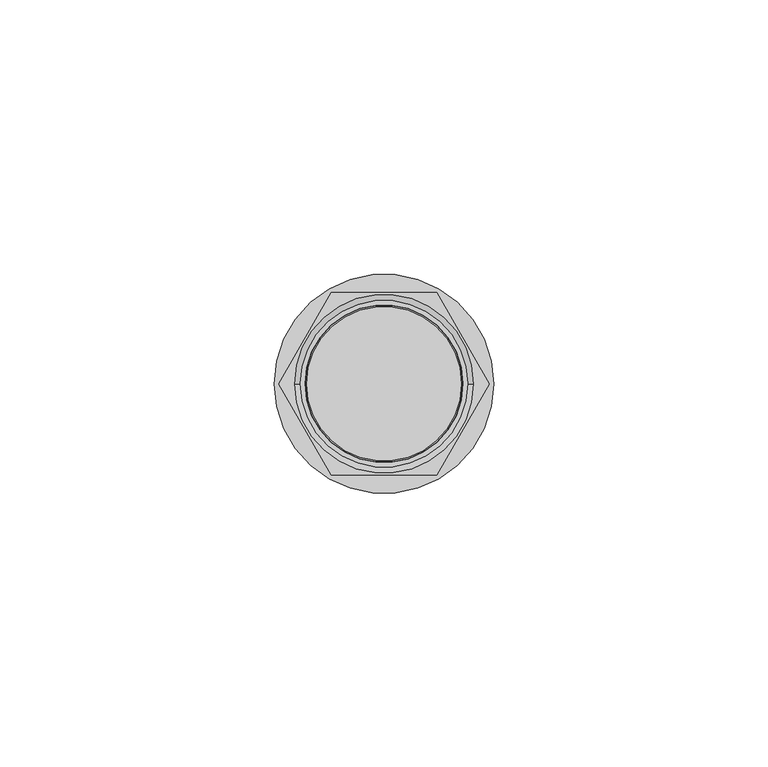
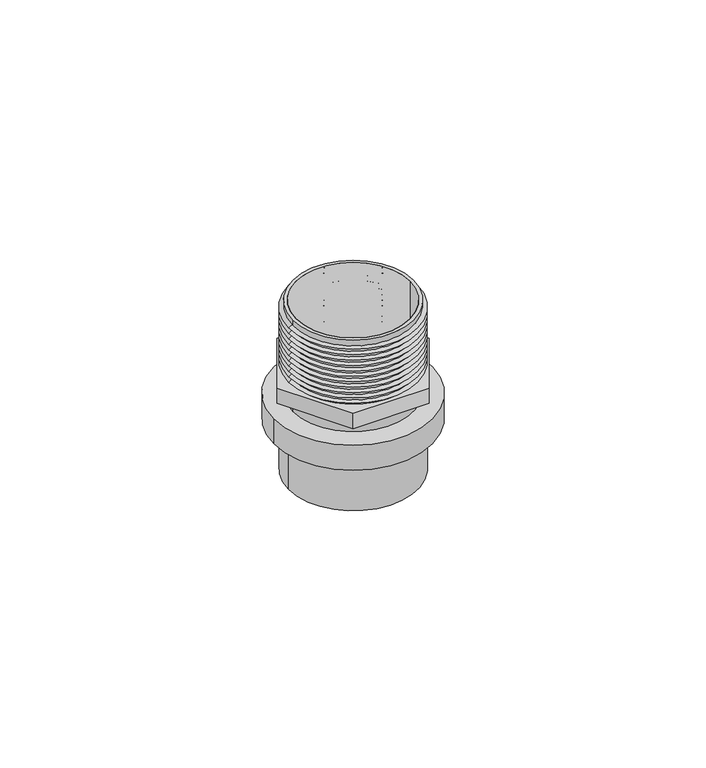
"""IFC4 building model written with IfcOpenShell, lengths in millimetres: valve geometry, Adaptador Macho con Ins Metalico_Lubrizol_CPVC_FlowGuard_MX 25mm : Adaptador Macho con Ins Metalico_Lubrizol_CPVC_FlowGuard_MX 25mm."""

import ifcopenshell
import ifcopenshell.guid

model = None  # the IFC model being written
_history = None  # IfcOwnerHistory: only IFC2X3 demands one
_inside = {}  # id of a spatial element -> (the spatial element, [elements in it])
_under = {}  # id of a project, library or spatial element -> (it, [spatial elements below it])
_declared = {}  # id of a project -> (the project, [libraries it declares])
_typed = {}  # id of a type object -> (the type object, [elements of that type])
_made_of = {}  # id of a material, layer set ... -> (it, [elements and type objects made of it])


def new_model(schema):
    """Start an empty IFC model of exactly this schema.

    Asked for "IFC4X3", IfcOpenShell would pick the latest addendum, in which some entities
    have other attributes; the version numbers below select the first issue.
    IFC2X3 requires an IfcOwnerHistory on every rooted entity: one is made here for all.
    """
    global model, _history
    if schema == "IFC4X3":
        model = ifcopenshell.file(schema_version=(4, 3, 0, 0))
    else:
        model = ifcopenshell.file(schema=schema)
    _inside.clear()
    _under.clear()
    _declared.clear()
    _typed.clear()
    _made_of.clear()
    _history = None
    if model.schema == "IFC2X3":
        org = make("IfcOrganization", Name="unknown")
        user = make(
            "IfcPersonAndOrganization",
            ThePerson=make("IfcPerson", FamilyName="unknown"),
            TheOrganization=org,
        )
        app = make(
            "IfcApplication",
            ApplicationDeveloper=org,
            Version="unknown",
            ApplicationFullName="unknown",
            ApplicationIdentifier="unknown",
        )
        _history = make(
            "IfcOwnerHistory",
            OwningUser=user,
            OwningApplication=app,
            ChangeAction="ADDED",
            CreationDate=0,
        )
    return model


def make(cls, **values):
    """One entity of the class cls with the attributes given. An attribute that is None is left unset."""
    return model.create_entity(
        cls, **{name: value for name, value in values.items() if value is not None}
    )


def rooted(cls, **values):
    """An entity with a GlobalId (a new one), such as an element, a storey or a relation."""
    return make(cls, GlobalId=ifcopenshell.guid.new(), OwnerHistory=_history, **values)


def si_unit(unit_type, name, prefix=None):
    """IfcSIUnit, for example si_unit("LENGTHUNIT", "METRE", prefix="MILLI")."""
    return make("IfcSIUnit", UnitType=unit_type, Prefix=prefix, Name=name)


def assignment(units):
    """IfcUnitAssignment: the units of a project."""
    return None if units is None else make("IfcUnitAssignment", Units=units)


def point(xyz):
    """IfcCartesianPoint."""
    return None if xyz is None else make("IfcCartesianPoint", Coordinates=xyz)


def direction(xyz):
    """IfcDirection."""
    return None if xyz is None else make("IfcDirection", DirectionRatios=xyz)


def frame(location, z_axis=None, x_axis=None):
    """IfcAxis2Placement3D, a coordinate frame: its origin and axes. An axis left out is left unset."""
    return make(
        "IfcAxis2Placement3D",
        Location=point(location),
        Axis=direction(z_axis),
        RefDirection=direction(x_axis),
    )


def frame_2d(location, x_axis=None):
    """IfcAxis2Placement2D, a coordinate frame in the plane: its origin and x axis."""
    return make(
        "IfcAxis2Placement2D", Location=point(location), RefDirection=direction(x_axis)
    )


def origin():
    """The frame at (0, 0, 0) with its axes left unset."""
    return frame((0.0, 0.0, 0.0))


def origin_with_axes():
    """The frame at (0, 0, 0) with the z axis (0, 0, 1) and the x axis (1, 0, 0) written out."""
    return frame((0.0, 0.0, 0.0), z_axis=(0.0, 0.0, 1.0), x_axis=(1.0, 0.0, 0.0))


def origin_2d():
    """The frame at (0, 0) in the plane with its x axis left unset."""
    return frame_2d((0.0, 0.0))


def place(relative_to, where):
    """IfcLocalPlacement: puts the frame where relative to a parent placement (None: the world)."""
    return make(
        "IfcLocalPlacement", PlacementRelTo=relative_to, RelativePlacement=where
    )


def context(
    kind, dimensions, precision=None, world=None, true_north=None, identifier=None
):
    """IfcGeometricRepresentationContext, for example the 3D "Model" context."""
    return make(
        "IfcGeometricRepresentationContext",
        ContextIdentifier=identifier,
        ContextType=kind,
        CoordinateSpaceDimension=dimensions,
        Precision=precision,
        WorldCoordinateSystem=world,
        TrueNorth=true_north,
    )


def project(units=None, contexts=None):
    """IfcProject with its units and contexts."""
    return rooted(
        "IfcProject",
        Name="project",
        RepresentationContexts=contexts,
        UnitsInContext=assignment(units),
    )


def spatial(cls, under=None, at=None, **own):
    """A site, building, storey or space (cls), placed at a placement, below another one or the project."""
    s = rooted(cls, ObjectPlacement=at, **own)
    if under is not None:
        _under.setdefault(under.id(), (under, []))[1].append(s)
    return s


def polyline(points):
    """IfcPolyline through the points."""
    return make("IfcPolyline", Points=[point(p) for p in points])


def circle_curve(where, radius):
    """IfcCircle in the frame where."""
    return make("IfcCircle", Position=where, Radius=radius)


def trimmed(basis, trim1, trim2, sense, master):
    """IfcTrimmedCurve: the piece of a basis curve between two trims."""
    return make(
        "IfcTrimmedCurve",
        BasisCurve=basis,
        Trim1=trim1,
        Trim2=trim2,
        SenseAgreement=sense,
        MasterRepresentation=master,
    )


def segment(curve, same_sense, transition):
    """IfcCompositeCurveSegment."""
    return make(
        "IfcCompositeCurveSegment",
        Transition=transition,
        SameSense=same_sense,
        ParentCurve=curve,
    )


def composite_curve(segments, self_intersect=None):
    """IfcCompositeCurve: segments joined end to end."""
    return make("IfcCompositeCurve", Segments=segments, SelfIntersect=self_intersect)


def outline(outer, holes=None, kind="AREA"):
    """IfcArbitraryClosedProfileDef: a profile drawn as a closed curve; with holes, ...WithVoids."""
    if holes is None:
        return make("IfcArbitraryClosedProfileDef", ProfileType=kind, OuterCurve=outer)
    return make(
        "IfcArbitraryProfileDefWithVoids",
        ProfileType=kind,
        OuterCurve=outer,
        InnerCurves=holes,
    )


def extrude(swept, where, along, depth):
    """IfcExtrudedAreaSolid: the profile swept, set in the frame where, extruded along a direction by depth."""
    return make(
        "IfcExtrudedAreaSolid",
        SweptArea=swept,
        Position=where,
        ExtrudedDirection=direction(along),
        Depth=depth,
    )


def shape(context_of_items, identifier, shape_type, items):
    """IfcShapeRepresentation: the items that make up one representation, for example the "Body"."""
    return make(
        "IfcShapeRepresentation",
        ContextOfItems=context_of_items,
        RepresentationIdentifier=identifier,
        RepresentationType=shape_type,
        Items=items,
    )


def source(mapping_origin, context_of_items, identifier, shape_type, items):
    """IfcRepresentationMap: a shape defined once, which mapped items show again and again."""
    return make(
        "IfcRepresentationMap",
        MappingOrigin=mapping_origin,
        MappedRepresentation=shape(context_of_items, identifier, shape_type, items),
    )


def transform(
    local_origin,
    x_axis=None,
    y_axis=None,
    z_axis=None,
    scale=None,
    scale2=None,
    scale3=None,
    uniform=True,
):
    """IfcCartesianTransformationOperator3D, or its non-uniform kind. x_axis, y_axis, z_axis: its Axis1, 2, 3."""
    if uniform:
        return make(
            "IfcCartesianTransformationOperator3D",
            Axis1=direction(x_axis),
            Axis2=direction(y_axis),
            LocalOrigin=point(local_origin),
            Scale=scale,
            Axis3=direction(z_axis),
        )
    return make(
        "IfcCartesianTransformationOperator3DnonUniform",
        Axis1=direction(x_axis),
        Axis2=direction(y_axis),
        LocalOrigin=point(local_origin),
        Scale=scale,
        Axis3=direction(z_axis),
        Scale2=scale2,
        Scale3=scale3,
    )


def mapped(mapping_source, mapping_target):
    """IfcMappedItem: shows the shape of a source again, moved by a transform."""
    return make(
        "IfcMappedItem", MappingSource=mapping_source, MappingTarget=mapping_target
    )


def made_of(thing, what):
    """Note that an element or type object is made of a material, layer set ...; save() writes the relation."""
    if what is not None:
        _made_of.setdefault(what.id(), (what, []))[1].append(thing)
    return thing


def element(
    cls,
    number,
    at=None,
    inside=None,
    cuts=None,
    type_object=None,
    material=None,
    context=None,
    identifier="Body",
    shape_type=None,
    held_by="IfcProductDefinitionShape",
    body=None,
    shapes=None,
    **own,
):
    """One element of the class cls, such as IfcWall. Its Tag is "e" and its number.

    at: its placement. inside: the storey or other place that contains it. cuts: it is an
    opening in that element (IfcRelVoidsElement). A single representation is given by context,
    identifier, shape_type and body (its items); several are given by shapes. held_by: the class
    of the entity that holds the representations. save() writes the other relations.
    """
    e = rooted(cls, Tag="e%d" % number, ObjectPlacement=at, **own)
    if body is not None:
        shapes = [shape(context, identifier, shape_type, body)]
    if shapes is not None:
        e.Representation = make(held_by, Representations=shapes)
    if inside is not None:
        _inside.setdefault(inside.id(), (inside, []))[1].append(e)
    if cuts is not None:
        rooted(
            "IfcRelVoidsElement", RelatingBuildingElement=cuts, RelatedOpeningElement=e
        )
    if type_object is not None:
        _typed.setdefault(type_object.id(), (type_object, []))[1].append(e)
    return made_of(e, material)


def aggregate(whole, parts):
    """IfcRelAggregates: a whole, such as a stair, and the parts it consists of."""
    return rooted("IfcRelAggregates", RelatingObject=whole, RelatedObjects=parts)


def save(model, path):
    """Write the relations noted so far, then the file.

    IfcRelAggregates (storeys below a building ...), IfcRelContainedInSpatialStructure (elements
    in a storey), IfcRelDefinesByType, IfcRelAssociatesMaterial and IfcRelDeclares: one each for
    every whole, place, type object, material and project.
    """
    for whole, parts in _under.values():
        aggregate(whole, parts)
    for where, things in _inside.values():
        rooted(
            "IfcRelContainedInSpatialStructure",
            RelatedElements=things,
            RelatingStructure=where,
        )
    for kind, things in _typed.values():
        rooted("IfcRelDefinesByType", RelatedObjects=things, RelatingType=kind)
    for what, things in _made_of.values():
        rooted("IfcRelAssociatesMaterial", RelatedObjects=things, RelatingMaterial=what)
    for by, libraries in _declared.values():
        rooted("IfcRelDeclares", RelatingContext=by, RelatedDefinitions=libraries)
    model.write(path)


def plane_surface(at):
    """IfcPlane: the flat surface through the origin of the frame at, square to its z axis."""
    return make("IfcPlane", Position=at)


def cylinder_surface(at, radius):
    """IfcCylindricalSurface: all points at the distance radius from the z axis of the frame at."""
    return make("IfcCylindricalSurface", Position=at, Radius=radius)


def revolved_surface(curve, axis_point, axis_direction):
    """IfcSurfaceOfRevolution: the curve turned about the line through axis_point along axis_direction."""
    return make(
        "IfcSurfaceOfRevolution",
        SweptCurve=make("IfcArbitraryOpenProfileDef", ProfileType="CURVE", Curve=curve),
        AxisPosition=make("IfcAxis1Placement", Location=point(axis_point), Axis=direction(axis_direction)),
    )


def advanced_brep(points, edges, surfaces, faces):
    """IfcAdvancedBrep: a solid bounded by faces that lie on surfaces and meet in shared edges.

    An edge is (start, end): straight between two places in points (the first is 0);
    or (start, end, curve); or (start, end, curve, False) where it runs against its curve.
    A face is (place in surfaces, loops), or (place, loops, False) where it looks against
    its surface's normal. A loop lists edges by number (the first is 1), with a minus sign
    where the edge is run from its end to its start. The first loop is the outer one.
    """
    corners = [point(p) for p in points]
    vertices = [make("IfcVertexPoint", VertexGeometry=c) for c in corners]
    made = []
    for start, end, *more in edges:
        made.append(
            make(
                "IfcEdgeCurve",
                EdgeStart=vertices[start],
                EdgeEnd=vertices[end],
                EdgeGeometry=more[0] if more else make("IfcPolyline", Points=[corners[start], corners[end]]),
                SameSense=more[1] if len(more) > 1 else True,
            )
        )
    hull = []
    for where, loops, *sense in faces:
        bounds = []
        for j, loop in enumerate(loops):
            ring = [make("IfcOrientedEdge", EdgeElement=made[abs(k) - 1], Orientation=k > 0) for k in loop]
            bounds.append(
                make(
                    "IfcFaceOuterBound" if j == 0 else "IfcFaceBound",
                    Bound=make("IfcEdgeLoop", EdgeList=ring),
                    Orientation=True,
                )
            )
        hull.append(make("IfcAdvancedFace", Bounds=bounds, FaceSurface=surfaces[where], SameSense=sense[0] if sense else True))
    return make("IfcAdvancedBrep", Outer=make("IfcClosedShell", CfsFaces=hull))


def valve_420338b3(model_context):
    return source(origin(), model_context, "Body", "SolidModel", [
        extrude(outline(composite_curve([segment(trimmed(circle_curve(origin_2d(), 20.0), [point((-20.0, 0.0))], [point((20.0, 0.0))], False, "CARTESIAN"), True, "CONTINUOUS"), segment(trimmed(circle_curve(origin_2d(), 20.0), [point((20.0, 0.0))], [point((-20.0, 0.0))], False, "CARTESIAN"), True, "CONTINUOUS")], self_intersect=False)), frame((0.0, 0.0, 13.4545928), z_axis=(0.0, 0.0, 1.0), x_axis=(1.0, 0.0, 0.0)), (0.0, 0.0, 1.0), 6.6751673),
        extrude(outline(composite_curve([segment(trimmed(circle_curve(origin_2d(), 15.2362873), [point((-15.2362873, 0.0))], [point((15.2362873, 0.0))], False, "CARTESIAN"), True, "CONTINUOUS"), segment(trimmed(circle_curve(origin_2d(), 15.2362873), [point((15.2362873, 0.0))], [point((-15.2362873, 0.0))], False, "CARTESIAN"), True, "CONTINUOUS")], self_intersect=False), holes=[composite_curve([segment(trimmed(circle_curve(origin_2d(), 14.3854831), [point((-14.3854831, 0.0))], [point((14.3854831, 0.0))], True, "CARTESIAN"), True, "CONTINUOUS"), segment(trimmed(circle_curve(origin_2d(), 14.3854831), [point((14.3854831, 0.0))], [point((-14.3854831, 0.0))], True, "CARTESIAN"), True, "CONTINUOUS")], self_intersect=False)]), frame((0.0, 0.0, 20.1297601), z_axis=(0.0, 0.0, 1.0), x_axis=(1.0, 0.0, 0.0)), (0.0, 0.0, 1.0), 24.7452399),
        extrude(outline(polyline([(-9.584841, -16.6014316), (-19.169682, 0.0), (-9.584841, 16.6014316), (9.584841, 16.6014316), (19.169682, 0.0), (9.584841, -16.6014316), (-9.584841, -16.6014316)]), holes=[composite_curve([segment(trimmed(circle_curve(origin_2d(), 14.1), [point((-14.1, 0.0))], [point((14.1, 0.0))], True, "CARTESIAN"), True, "CONTINUOUS"), segment(trimmed(circle_curve(origin_2d(), 14.1), [point((14.1, 0.0))], [point((-14.1, 0.0))], True, "CARTESIAN"), True, "CONTINUOUS")], self_intersect=False)]), frame((0.0, 0.0, 23.974905), z_axis=(0.0, 0.0, 1.0), x_axis=(1.0, 0.0, 0.0)), (0.0, 0.0, 1.0), 4.0502174),
        advanced_brep(
        [(15.2362873, 0.0, 43.8839284), (-15.2362873, 0.0, 43.8839284), (-15.2362873, 0.0, 44.875), (15.2362873, 0.0, 44.875), (16.3, 0.0, 43.1391088), (-16.3, 0.0, 43.1391088), (15.2657757, 0.0, 42.4149371), (-15.2657757, 0.0, 42.4149371), (16.3, 0.0, 41.6907655), (-16.3, 0.0, 41.6907655), (15.2657757, 0.0, 40.9665939), (-15.2657757, 0.0, 40.9665939), (16.3, 0.0, 40.2424223), (-16.3, 0.0, 40.2424223), (15.2657757, 0.0, 39.5182506), (-15.2657757, 0.0, 39.5182506), (16.3, 0.0, 38.794079), (-16.3, 0.0, 38.794079), (15.2657757, 0.0, 38.0699074), (-15.2657757, 0.0, 38.0699074), (16.3, 0.0, 37.3457358), (-16.3, 0.0, 37.3457358), (15.2657757, 0.0, 36.6215641), (-15.2657757, 0.0, 36.6215641), (16.3, 0.0, 35.8973925), (-16.3, 0.0, 35.8973925), (15.2657757, 0.0, 35.1732209), (-15.2657757, 0.0, 35.1732209), (16.3, 0.0, 34.4490493), (-16.3, 0.0, 34.4490493), (15.2657757, 0.0, 33.7248777), (-15.2657757, 0.0, 33.7248777), (16.3, 0.0, 33.000706), (-16.3, 0.0, 33.000706), (15.2657757, 0.0, 32.2765344), (-15.2657757, 0.0, 32.2765344), (16.3, 0.0, 31.5523628), (-16.3, 0.0, 31.5523628), (15.2992007, 0.0, 30.8515956), (-15.2992007, 0.0, 30.8515956), (14.3854831, 0.0, 44.875), (-14.3854831, 0.0, 44.875), (-14.3854831, 0.0, 28.0251223), (14.3854831, 0.0, 28.0251223), (16.3, 0.0, 30.1508284), (-16.3, 0.0, 30.1508284), (15.2657757, 0.0, 29.4266568), (-15.2657757, 0.0, 29.4266568), (16.3, 0.0, 28.7024851), (-16.3, 0.0, 28.7024851), (15.3326257, 0.0, 28.0251223), (-15.3326257, 0.0, 28.0251223)],
        [
            (0, 1, circle_curve(frame((0.0, 0.0, 43.8839284), z_axis=(0.0, 0.0, 1.0), x_axis=(-1.0, 0.0, 0.0)), 15.2362873)),
            (1, 2),
            (2, 3, circle_curve(frame((0.0, 0.0, 44.875), z_axis=(0.0, 0.0, -1.0), x_axis=(-1.0, 0.0, 0.0)), 15.2362873)),
            (3, 0),
            (1, 0, circle_curve(frame((0.0, 0.0, 43.8839284), z_axis=(0.0, 0.0, 1.0), x_axis=(-1.0, 0.0, 0.0)), 15.2362873)),
            (3, 2, circle_curve(frame((0.0, 0.0, 44.875), z_axis=(0.0, 0.0, -1.0), x_axis=(-1.0, 0.0, 0.0)), 15.2362873)),
            (4, 5, circle_curve(frame((0.0, 0.0, 43.1391088), z_axis=(0.0, 0.0, 1.0), x_axis=(-1.0, 0.0, 0.0)), 16.3)),
            (5, 1),
            (0, 4),
            (5, 4, circle_curve(frame((0.0, 0.0, 43.1391088), z_axis=(0.0, 0.0, 1.0), x_axis=(-1.0, 0.0, 0.0)), 16.3)),
            (6, 7, circle_curve(frame((0.0, 0.0, 42.4149371), z_axis=(0.0, 0.0, 1.0), x_axis=(-1.0, 0.0, 0.0)), 15.2657757)),
            (7, 5),
            (4, 6),
            (7, 6, circle_curve(frame((0.0, 0.0, 42.4149371), z_axis=(0.0, 0.0, 1.0), x_axis=(-1.0, 0.0, 0.0)), 15.2657757)),
            (8, 9, circle_curve(frame((0.0, 0.0, 41.6907655), z_axis=(0.0, 0.0, 1.0), x_axis=(-1.0, 0.0, 0.0)), 16.3)),
            (9, 7),
            (6, 8),
            (9, 8, circle_curve(frame((0.0, 0.0, 41.6907655), z_axis=(0.0, 0.0, 1.0), x_axis=(-1.0, 0.0, 0.0)), 16.3)),
            (10, 11, circle_curve(frame((0.0, 0.0, 40.9665939), z_axis=(0.0, 0.0, 1.0), x_axis=(-1.0, 0.0, 0.0)), 15.2657757)),
            (11, 9),
            (8, 10),
            (11, 10, circle_curve(frame((0.0, 0.0, 40.9665939), z_axis=(0.0, 0.0, 1.0), x_axis=(-1.0, 0.0, 0.0)), 15.2657757)),
            (12, 13, circle_curve(frame((0.0, 0.0, 40.2424223), z_axis=(0.0, 0.0, 1.0), x_axis=(-1.0, 0.0, 0.0)), 16.3)),
            (13, 11),
            (10, 12),
            (13, 12, circle_curve(frame((0.0, 0.0, 40.2424223), z_axis=(0.0, 0.0, 1.0), x_axis=(-1.0, 0.0, 0.0)), 16.3)),
            (14, 15, circle_curve(frame((0.0, 0.0, 39.5182506), z_axis=(0.0, 0.0, 1.0), x_axis=(-1.0, 0.0, 0.0)), 15.2657757)),
            (15, 13),
            (12, 14),
            (15, 14, circle_curve(frame((0.0, 0.0, 39.5182506), z_axis=(0.0, 0.0, 1.0), x_axis=(-1.0, 0.0, 0.0)), 15.2657757)),
            (16, 17, circle_curve(frame((0.0, 0.0, 38.794079), z_axis=(0.0, 0.0, 1.0), x_axis=(-1.0, 0.0, 0.0)), 16.3)),
            (17, 15),
            (14, 16),
            (17, 16, circle_curve(frame((0.0, 0.0, 38.794079), z_axis=(0.0, 0.0, 1.0), x_axis=(-1.0, 0.0, 0.0)), 16.3)),
            (18, 19, circle_curve(frame((0.0, 0.0, 38.0699074), z_axis=(0.0, 0.0, 1.0), x_axis=(-1.0, 0.0, 0.0)), 15.2657757)),
            (19, 17),
            (16, 18),
            (19, 18, circle_curve(frame((0.0, 0.0, 38.0699074), z_axis=(0.0, 0.0, 1.0), x_axis=(-1.0, 0.0, 0.0)), 15.2657757)),
            (20, 21, circle_curve(frame((0.0, 0.0, 37.3457358), z_axis=(0.0, 0.0, 1.0), x_axis=(-1.0, 0.0, 0.0)), 16.3)),
            (21, 19),
            (18, 20),
            (21, 20, circle_curve(frame((0.0, 0.0, 37.3457358), z_axis=(0.0, 0.0, 1.0), x_axis=(-1.0, 0.0, 0.0)), 16.3)),
            (22, 23, circle_curve(frame((0.0, 0.0, 36.6215641), z_axis=(0.0, 0.0, 1.0), x_axis=(-1.0, 0.0, 0.0)), 15.2657757)),
            (23, 21),
            (20, 22),
            (23, 22, circle_curve(frame((0.0, 0.0, 36.6215641), z_axis=(0.0, 0.0, 1.0), x_axis=(-1.0, 0.0, 0.0)), 15.2657757)),
            (24, 25, circle_curve(frame((0.0, 0.0, 35.8973925), z_axis=(0.0, 0.0, 1.0), x_axis=(-1.0, 0.0, 0.0)), 16.3)),
            (25, 23),
            (22, 24),
            (25, 24, circle_curve(frame((0.0, 0.0, 35.8973925), z_axis=(0.0, 0.0, 1.0), x_axis=(-1.0, 0.0, 0.0)), 16.3)),
            (26, 27, circle_curve(frame((0.0, 0.0, 35.1732209), z_axis=(0.0, 0.0, 1.0), x_axis=(-1.0, 0.0, 0.0)), 15.2657757)),
            (27, 25),
            (24, 26),
            (27, 26, circle_curve(frame((0.0, 0.0, 35.1732209), z_axis=(0.0, 0.0, 1.0), x_axis=(-1.0, 0.0, 0.0)), 15.2657757)),
            (28, 29, circle_curve(frame((0.0, 0.0, 34.4490493), z_axis=(0.0, 0.0, 1.0), x_axis=(-1.0, 0.0, 0.0)), 16.3)),
            (29, 27),
            (26, 28),
            (29, 28, circle_curve(frame((0.0, 0.0, 34.4490493), z_axis=(0.0, 0.0, 1.0), x_axis=(-1.0, 0.0, 0.0)), 16.3)),
            (30, 31, circle_curve(frame((0.0, 0.0, 33.7248777), z_axis=(0.0, 0.0, 1.0), x_axis=(-1.0, 0.0, 0.0)), 15.2657757)),
            (31, 29),
            (28, 30),
            (31, 30, circle_curve(frame((0.0, 0.0, 33.7248777), z_axis=(0.0, 0.0, 1.0), x_axis=(-1.0, 0.0, 0.0)), 15.2657757)),
            (32, 33, circle_curve(frame((0.0, 0.0, 33.000706), z_axis=(0.0, 0.0, 1.0), x_axis=(-1.0, 0.0, 0.0)), 16.3)),
            (33, 31),
            (30, 32),
            (33, 32, circle_curve(frame((0.0, 0.0, 33.000706), z_axis=(0.0, 0.0, 1.0), x_axis=(-1.0, 0.0, 0.0)), 16.3)),
            (34, 35, circle_curve(frame((0.0, 0.0, 32.2765344), z_axis=(0.0, 0.0, 1.0), x_axis=(-1.0, 0.0, 0.0)), 15.2657757)),
            (35, 33),
            (32, 34),
            (35, 34, circle_curve(frame((0.0, 0.0, 32.2765344), z_axis=(0.0, 0.0, 1.0), x_axis=(-1.0, 0.0, 0.0)), 15.2657757)),
            (36, 37, circle_curve(frame((0.0, 0.0, 31.5523628), z_axis=(0.0, 0.0, 1.0), x_axis=(-1.0, 0.0, 0.0)), 16.3)),
            (37, 35),
            (34, 36),
            (37, 36, circle_curve(frame((0.0, 0.0, 31.5523628), z_axis=(0.0, 0.0, 1.0), x_axis=(-1.0, 0.0, 0.0)), 16.3)),
            (38, 39, circle_curve(frame((0.0, 0.0, 30.8515956), z_axis=(0.0, 0.0, 1.0), x_axis=(-1.0, 0.0, 0.0)), 15.2992007)),
            (39, 37),
            (36, 38),
            (39, 38, circle_curve(frame((0.0, 0.0, 30.8515956), z_axis=(0.0, 0.0, 1.0), x_axis=(-1.0, 0.0, 0.0)), 15.2992007)),
            (40, 41, circle_curve(frame((0.0, 0.0, 44.875), z_axis=(0.0, 0.0, 1.0), x_axis=(-1.0, 0.0, 0.0)), 14.3854831)),
            (41, 42),
            (42, 43, circle_curve(frame((0.0, 0.0, 28.0251223), z_axis=(0.0, 0.0, -1.0), x_axis=(-1.0, 0.0, 0.0)), 14.3854831)),
            (43, 40),
            (41, 40, circle_curve(frame((0.0, 0.0, 44.875), z_axis=(0.0, 0.0, 1.0), x_axis=(-1.0, 0.0, 0.0)), 14.3854831)),
            (43, 42, circle_curve(frame((0.0, 0.0, 28.0251223), z_axis=(0.0, 0.0, -1.0), x_axis=(-1.0, 0.0, 0.0)), 14.3854831)),
            (2, 41),
            (40, 3),
            (44, 45, circle_curve(frame((0.0, 0.0, 30.1508284), z_axis=(0.0, 0.0, 1.0), x_axis=(-1.0, 0.0, 0.0)), 16.3)),
            (45, 39),
            (38, 44),
            (45, 44, circle_curve(frame((0.0, 0.0, 30.1508284), z_axis=(0.0, 0.0, 1.0), x_axis=(-1.0, 0.0, 0.0)), 16.3)),
            (46, 47, circle_curve(frame((0.0, 0.0, 29.4266568), z_axis=(0.0, 0.0, 1.0), x_axis=(-1.0, 0.0, 0.0)), 15.2657757)),
            (47, 45),
            (44, 46),
            (47, 46, circle_curve(frame((0.0, 0.0, 29.4266568), z_axis=(0.0, 0.0, 1.0), x_axis=(-1.0, 0.0, 0.0)), 15.2657757)),
            (48, 49, circle_curve(frame((0.0, 0.0, 28.7024851), z_axis=(0.0, 0.0, 1.0), x_axis=(-1.0, 0.0, 0.0)), 16.3)),
            (49, 47),
            (46, 48),
            (49, 48, circle_curve(frame((0.0, 0.0, 28.7024851), z_axis=(0.0, 0.0, 1.0), x_axis=(-1.0, 0.0, 0.0)), 16.3)),
            (50, 51, circle_curve(frame((0.0, 0.0, 28.0251223), z_axis=(0.0, 0.0, 1.0), x_axis=(-1.0, 0.0, 0.0)), 15.3326257)),
            (51, 49),
            (48, 50),
            (51, 50, circle_curve(frame((0.0, 0.0, 28.0251223), z_axis=(0.0, 0.0, 1.0), x_axis=(-1.0, 0.0, 0.0)), 15.3326257)),
            (42, 51),
            (50, 43),
        ],
        [
            cylinder_surface(frame((0.0, 0.0, 39.6339883), z_axis=(0.0, 0.0, -1.0), x_axis=(-1.0, 0.0, 0.0)), 15.2362873),
            revolved_surface(polyline([(-15.2362873, 0.0, 43.8839284), (-16.3, 0.0, 43.1391088)]), (0.0, 0.0, 39.6339883), (0.0, 0.0, -1.0)),
            revolved_surface(polyline([(-16.3, 0.0, 43.1391088), (-15.2657757, 0.0, 42.4149371)]), (0.0, 0.0, 39.6339883), (0.0, 0.0, -1.0)),
            revolved_surface(polyline([(-15.2657757, 0.0, 42.4149371), (-16.3, 0.0, 41.6907655)]), (0.0, 0.0, 39.6339883), (0.0, 0.0, -1.0)),
            revolved_surface(polyline([(-16.3, 0.0, 41.6907655), (-15.2657757, 0.0, 40.9665939)]), (0.0, 0.0, 39.6339883), (0.0, 0.0, -1.0)),
            revolved_surface(polyline([(-15.2657757, 0.0, 40.9665939), (-16.3, 0.0, 40.2424223)]), (0.0, 0.0, 39.6339883), (0.0, 0.0, -1.0)),
            revolved_surface(polyline([(-16.3, 0.0, 40.2424223), (-15.2657757, 0.0, 39.5182506)]), (0.0, 0.0, 39.6339883), (0.0, 0.0, -1.0)),
            revolved_surface(polyline([(-15.2657757, 0.0, 39.5182506), (-16.3, 0.0, 38.794079)]), (0.0, 0.0, 39.6339883), (0.0, 0.0, -1.0)),
            revolved_surface(polyline([(-16.3, 0.0, 38.794079), (-15.2657757, 0.0, 38.0699074)]), (0.0, 0.0, 39.6339883), (0.0, 0.0, -1.0)),
            revolved_surface(polyline([(-15.2657757, 0.0, 38.0699074), (-16.3, 0.0, 37.3457358)]), (0.0, 0.0, 39.6339883), (0.0, 0.0, -1.0)),
            revolved_surface(polyline([(-16.3, 0.0, 37.3457358), (-15.2657757, 0.0, 36.6215641)]), (0.0, 0.0, 39.6339883), (0.0, 0.0, -1.0)),
            revolved_surface(polyline([(-15.2657757, 0.0, 36.6215641), (-16.3, 0.0, 35.8973925)]), (0.0, 0.0, 39.6339883), (0.0, 0.0, -1.0)),
            revolved_surface(polyline([(-16.3, 0.0, 35.8973925), (-15.2657757, 0.0, 35.1732209)]), (0.0, 0.0, 39.6339883), (0.0, 0.0, -1.0)),
            revolved_surface(polyline([(-15.2657757, 0.0, 35.1732209), (-16.3, 0.0, 34.4490493)]), (0.0, 0.0, 39.6339883), (0.0, 0.0, -1.0)),
            revolved_surface(polyline([(-16.3, 0.0, 34.4490493), (-15.2657757, 0.0, 33.7248777)]), (0.0, 0.0, 39.6339883), (0.0, 0.0, -1.0)),
            revolved_surface(polyline([(-15.2657757, 0.0, 33.7248777), (-16.3, 0.0, 33.000706)]), (0.0, 0.0, 39.6339883), (0.0, 0.0, -1.0)),
            revolved_surface(polyline([(-16.3, 0.0, 33.000706), (-15.2657757, 0.0, 32.2765344)]), (0.0, 0.0, 39.6339883), (0.0, 0.0, -1.0)),
            revolved_surface(polyline([(-15.2657757, 0.0, 32.2765344), (-16.3, 0.0, 31.5523628)]), (0.0, 0.0, 39.6339883), (0.0, 0.0, -1.0)),
            revolved_surface(polyline([(-16.3, 0.0, 31.5523628), (-15.2992007, 0.0, 30.8515956)]), (0.0, 0.0, 39.6339883), (0.0, 0.0, -1.0)),
            revolved_surface(polyline([(-14.3854831, 0.0, 28.0251223), (-14.3854831, 0.0, 44.875)]), (0.0, 0.0, 39.6339883), (0.0, 0.0, -1.0)),
            plane_surface(frame((0.0, 0.0, 44.875), z_axis=(0.0, 0.0, 1.0), x_axis=(-1.0, 0.0, 0.0))),
            revolved_surface(polyline([(-15.2992007, 0.0, 30.8515956), (-16.3, 0.0, 30.1508284)]), (0.0, 0.0, 39.6339883), (0.0, 0.0, -1.0)),
            revolved_surface(polyline([(-16.3, 0.0, 30.1508284), (-15.2657757, 0.0, 29.4266568)]), (0.0, 0.0, 39.6339883), (0.0, 0.0, -1.0)),
            revolved_surface(polyline([(-15.2657757, 0.0, 29.4266568), (-16.3, 0.0, 28.7024851)]), (0.0, 0.0, 39.6339883), (0.0, 0.0, -1.0)),
            revolved_surface(polyline([(-16.3, 0.0, 28.7024851), (-15.3326257, 0.0, 28.0251223)]), (0.0, 0.0, 39.6339883), (0.0, 0.0, -1.0)),
            plane_surface(frame((0.0, 0.0, 28.0251223), z_axis=(0.0, 0.0, -1.0), x_axis=(-1.0, 0.0, 0.0))),
        ],
        [
            (0, [[1, 2, 3, 4]]),
            (0, [[5, -4, 6, -2]]),
            (1, [[7, 8, -1, 9]]),
            (1, [[10, -9, -5, -8]]),
            (2, [[11, 12, -7, 13]]),
            (2, [[14, -13, -10, -12]]),
            (3, [[15, 16, -11, 17]]),
            (3, [[18, -17, -14, -16]]),
            (4, [[19, 20, -15, 21]]),
            (4, [[22, -21, -18, -20]]),
            (5, [[23, 24, -19, 25]]),
            (5, [[26, -25, -22, -24]]),
            (6, [[27, 28, -23, 29]]),
            (6, [[30, -29, -26, -28]]),
            (7, [[31, 32, -27, 33]]),
            (7, [[34, -33, -30, -32]]),
            (8, [[35, 36, -31, 37]]),
            (8, [[38, -37, -34, -36]]),
            (9, [[39, 40, -35, 41]]),
            (9, [[42, -41, -38, -40]]),
            (10, [[43, 44, -39, 45]]),
            (10, [[46, -45, -42, -44]]),
            (11, [[47, 48, -43, 49]]),
            (11, [[50, -49, -46, -48]]),
            (12, [[51, 52, -47, 53]]),
            (12, [[54, -53, -50, -52]]),
            (13, [[55, 56, -51, 57]]),
            (13, [[58, -57, -54, -56]]),
            (14, [[59, 60, -55, 61]]),
            (14, [[62, -61, -58, -60]]),
            (15, [[63, 64, -59, 65]]),
            (15, [[66, -65, -62, -64]]),
            (16, [[67, 68, -63, 69]]),
            (16, [[70, -69, -66, -68]]),
            (17, [[71, 72, -67, 73]]),
            (17, [[74, -73, -70, -72]]),
            (18, [[75, 76, -71, 77]]),
            (18, [[78, -77, -74, -76]]),
            (19, [[79, 80, 81, 82]]),
            (19, [[83, -82, 84, -80]]),
            (20, [[-3, 85, -79, 86]]),
            (20, [[-6, -86, -83, -85]]),
            (21, [[87, 88, -75, 89]]),
            (21, [[90, -89, -78, -88]]),
            (22, [[91, 92, -87, 93]]),
            (22, [[94, -93, -90, -92]]),
            (23, [[95, 96, -91, 97]]),
            (23, [[98, -97, -94, -96]]),
            (24, [[99, 100, -95, 101]]),
            (24, [[102, -101, -98, -100]]),
            (25, [[-81, 103, -99, 104]]),
            (25, [[-84, -104, -102, -103]]),
        ],
    ),
        extrude(outline(composite_curve([segment(trimmed(circle_curve(origin_2d(), 16.3), [point((-16.3, 0.0))], [point((16.3, 0.0))], False, "CARTESIAN"), True, "CONTINUOUS"), segment(trimmed(circle_curve(origin_2d(), 16.3), [point((16.3, 0.0))], [point((-16.3, 0.0))], False, "CARTESIAN"), True, "CONTINUOUS")], self_intersect=False), holes=[composite_curve([segment(trimmed(circle_curve(origin_2d(), 14.3), [point((-14.3, 0.0))], [point((14.3, 0.0))], True, "CARTESIAN"), True, "CONTINUOUS"), segment(trimmed(circle_curve(origin_2d(), 14.3), [point((14.3, 0.0))], [point((-14.3, 0.0))], True, "CARTESIAN"), True, "CONTINUOUS")], self_intersect=False)]), origin_with_axes(), (0.0, 0.0, 1.0), 13.4545928),
    ])


if __name__ == "__main__":
    model = new_model("IFC4")
    model_context = context("Model", 3, world=origin())
    ifc_project = project(units=[si_unit("LENGTHUNIT", "METRE", prefix="MILLI")], contexts=[model_context])
    site = spatial("IfcSite", under=ifc_project)
    building = spatial("IfcBuilding", under=site)
    placement = place(None, origin())
    valve_shape = valve_420338b3(model_context)
    element("IfcValve", 1, ObjectType="Adaptador Macho con Ins Metalico_Lubrizol_CPVC_FlowGuard_MX 25mm : Adaptador Macho con Ins Metalico_Lubrizol_CPVC_FlowGuard_MX 25mm", at=placement, inside=building, context=model_context, shape_type="MappedRepresentation", body=[
        mapped(valve_shape, transform((0.0, 0.0, 0.0), x_axis=(1.0, 0.0, 0.0), y_axis=(0.0, 1.0, 0.0), z_axis=(0.0, 0.0, 1.0))),
    ])
    save(model, "model.ifc")
